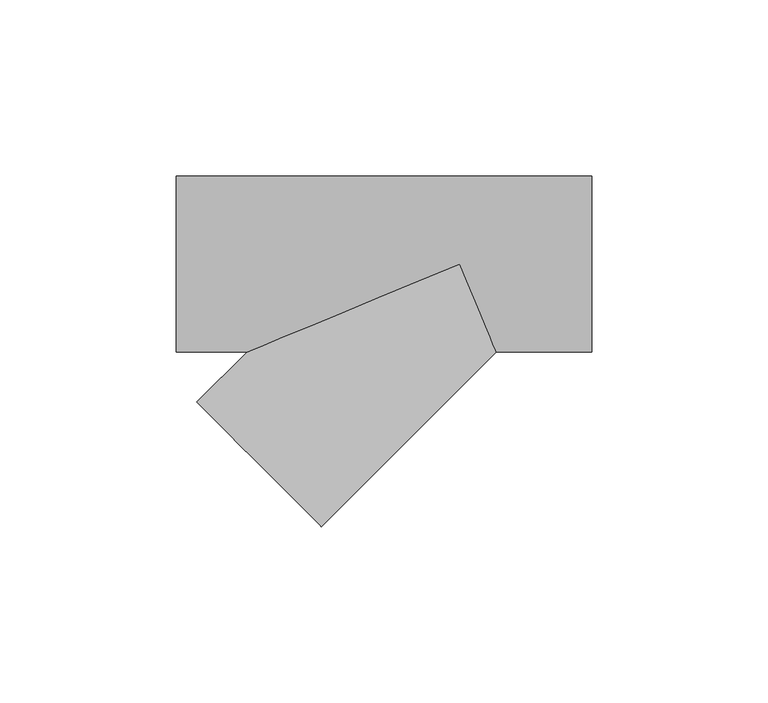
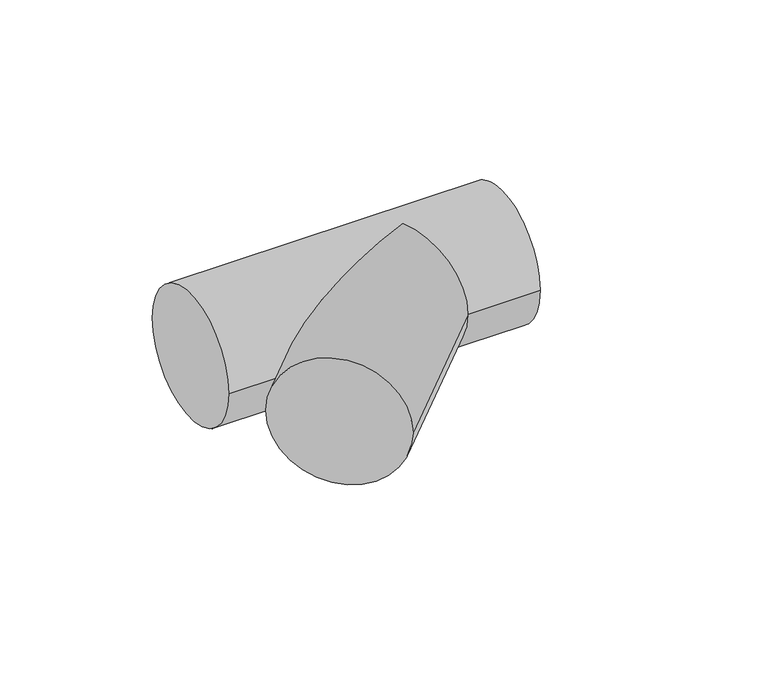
"""IFC4 building model written with IfcOpenShell, lengths in millimetres: pipe fitting geometry, 010513441 : Tés à 45º."""

import ifcopenshell
import ifcopenshell.guid

model = None  # the IFC model being written
_history = None  # IfcOwnerHistory: only IFC2X3 demands one
_inside = {}  # id of a spatial element -> (the spatial element, [elements in it])
_under = {}  # id of a project, library or spatial element -> (it, [spatial elements below it])
_declared = {}  # id of a project -> (the project, [libraries it declares])
_typed = {}  # id of a type object -> (the type object, [elements of that type])
_made_of = {}  # id of a material, layer set ... -> (it, [elements and type objects made of it])


def new_model(schema):
    """Start an empty IFC model of exactly this schema.

    Asked for "IFC4X3", IfcOpenShell would pick the latest addendum, in which some entities
    have other attributes; the version numbers below select the first issue.
    IFC2X3 requires an IfcOwnerHistory on every rooted entity: one is made here for all.
    """
    global model, _history
    if schema == "IFC4X3":
        model = ifcopenshell.file(schema_version=(4, 3, 0, 0))
    else:
        model = ifcopenshell.file(schema=schema)
    _inside.clear()
    _under.clear()
    _declared.clear()
    _typed.clear()
    _made_of.clear()
    _history = None
    if model.schema == "IFC2X3":
        org = make("IfcOrganization", Name="unknown")
        user = make(
            "IfcPersonAndOrganization",
            ThePerson=make("IfcPerson", FamilyName="unknown"),
            TheOrganization=org,
        )
        app = make(
            "IfcApplication",
            ApplicationDeveloper=org,
            Version="unknown",
            ApplicationFullName="unknown",
            ApplicationIdentifier="unknown",
        )
        _history = make(
            "IfcOwnerHistory",
            OwningUser=user,
            OwningApplication=app,
            ChangeAction="ADDED",
            CreationDate=0,
        )
    return model


def make(cls, **values):
    """One entity of the class cls with the attributes given. An attribute that is None is left unset."""
    return model.create_entity(
        cls, **{name: value for name, value in values.items() if value is not None}
    )


def rooted(cls, **values):
    """An entity with a GlobalId (a new one), such as an element, a storey or a relation."""
    return make(cls, GlobalId=ifcopenshell.guid.new(), OwnerHistory=_history, **values)


def si_unit(unit_type, name, prefix=None):
    """IfcSIUnit, for example si_unit("LENGTHUNIT", "METRE", prefix="MILLI")."""
    return make("IfcSIUnit", UnitType=unit_type, Prefix=prefix, Name=name)


def assignment(units):
    """IfcUnitAssignment: the units of a project."""
    return None if units is None else make("IfcUnitAssignment", Units=units)


def point(xyz):
    """IfcCartesianPoint."""
    return None if xyz is None else make("IfcCartesianPoint", Coordinates=xyz)


def direction(xyz):
    """IfcDirection."""
    return None if xyz is None else make("IfcDirection", DirectionRatios=xyz)


def frame(location, z_axis=None, x_axis=None):
    """IfcAxis2Placement3D, a coordinate frame: its origin and axes. An axis left out is left unset."""
    return make(
        "IfcAxis2Placement3D",
        Location=point(location),
        Axis=direction(z_axis),
        RefDirection=direction(x_axis),
    )


def origin():
    """The frame at (0, 0, 0) with its axes left unset."""
    return frame((0.0, 0.0, 0.0))


def place(relative_to, where):
    """IfcLocalPlacement: puts the frame where relative to a parent placement (None: the world)."""
    return make(
        "IfcLocalPlacement", PlacementRelTo=relative_to, RelativePlacement=where
    )


def context(
    kind, dimensions, precision=None, world=None, true_north=None, identifier=None
):
    """IfcGeometricRepresentationContext, for example the 3D "Model" context."""
    return make(
        "IfcGeometricRepresentationContext",
        ContextIdentifier=identifier,
        ContextType=kind,
        CoordinateSpaceDimension=dimensions,
        Precision=precision,
        WorldCoordinateSystem=world,
        TrueNorth=true_north,
    )


def project(units=None, contexts=None):
    """IfcProject with its units and contexts."""
    return rooted(
        "IfcProject",
        Name="project",
        RepresentationContexts=contexts,
        UnitsInContext=assignment(units),
    )


def spatial(cls, under=None, at=None, **own):
    """A site, building, storey or space (cls), placed at a placement, below another one or the project."""
    s = rooted(cls, ObjectPlacement=at, **own)
    if under is not None:
        _under.setdefault(under.id(), (under, []))[1].append(s)
    return s


def circle_curve(where, radius):
    """IfcCircle in the frame where."""
    return make("IfcCircle", Position=where, Radius=radius)


def ellipse_curve(where, semi_axis1, semi_axis2):
    """IfcEllipse in the frame where."""
    return make(
        "IfcEllipse", Position=where, SemiAxis1=semi_axis1, SemiAxis2=semi_axis2
    )


def shape(context_of_items, identifier, shape_type, items):
    """IfcShapeRepresentation: the items that make up one representation, for example the "Body"."""
    return make(
        "IfcShapeRepresentation",
        ContextOfItems=context_of_items,
        RepresentationIdentifier=identifier,
        RepresentationType=shape_type,
        Items=items,
    )


def source(mapping_origin, context_of_items, identifier, shape_type, items):
    """IfcRepresentationMap: a shape defined once, which mapped items show again and again."""
    return make(
        "IfcRepresentationMap",
        MappingOrigin=mapping_origin,
        MappedRepresentation=shape(context_of_items, identifier, shape_type, items),
    )


def transform(
    local_origin,
    x_axis=None,
    y_axis=None,
    z_axis=None,
    scale=None,
    scale2=None,
    scale3=None,
    uniform=True,
):
    """IfcCartesianTransformationOperator3D, or its non-uniform kind. x_axis, y_axis, z_axis: its Axis1, 2, 3."""
    if uniform:
        return make(
            "IfcCartesianTransformationOperator3D",
            Axis1=direction(x_axis),
            Axis2=direction(y_axis),
            LocalOrigin=point(local_origin),
            Scale=scale,
            Axis3=direction(z_axis),
        )
    return make(
        "IfcCartesianTransformationOperator3DnonUniform",
        Axis1=direction(x_axis),
        Axis2=direction(y_axis),
        LocalOrigin=point(local_origin),
        Scale=scale,
        Axis3=direction(z_axis),
        Scale2=scale2,
        Scale3=scale3,
    )


def mapped(mapping_source, mapping_target):
    """IfcMappedItem: shows the shape of a source again, moved by a transform."""
    return make(
        "IfcMappedItem", MappingSource=mapping_source, MappingTarget=mapping_target
    )


def made_of(thing, what):
    """Note that an element or type object is made of a material, layer set ...; save() writes the relation."""
    if what is not None:
        _made_of.setdefault(what.id(), (what, []))[1].append(thing)
    return thing


def element(
    cls,
    number,
    at=None,
    inside=None,
    cuts=None,
    type_object=None,
    material=None,
    context=None,
    identifier="Body",
    shape_type=None,
    held_by="IfcProductDefinitionShape",
    body=None,
    shapes=None,
    **own,
):
    """One element of the class cls, such as IfcWall. Its Tag is "e" and its number.

    at: its placement. inside: the storey or other place that contains it. cuts: it is an
    opening in that element (IfcRelVoidsElement). A single representation is given by context,
    identifier, shape_type and body (its items); several are given by shapes. held_by: the class
    of the entity that holds the representations. save() writes the other relations.
    """
    e = rooted(cls, Tag="e%d" % number, ObjectPlacement=at, **own)
    if body is not None:
        shapes = [shape(context, identifier, shape_type, body)]
    if shapes is not None:
        e.Representation = make(held_by, Representations=shapes)
    if inside is not None:
        _inside.setdefault(inside.id(), (inside, []))[1].append(e)
    if cuts is not None:
        rooted(
            "IfcRelVoidsElement", RelatingBuildingElement=cuts, RelatedOpeningElement=e
        )
    if type_object is not None:
        _typed.setdefault(type_object.id(), (type_object, []))[1].append(e)
    return made_of(e, material)


def aggregate(whole, parts):
    """IfcRelAggregates: a whole, such as a stair, and the parts it consists of."""
    return rooted("IfcRelAggregates", RelatingObject=whole, RelatedObjects=parts)


def save(model, path):
    """Write the relations noted so far, then the file.

    IfcRelAggregates (storeys below a building ...), IfcRelContainedInSpatialStructure (elements
    in a storey), IfcRelDefinesByType, IfcRelAssociatesMaterial and IfcRelDeclares: one each for
    every whole, place, type object, material and project.
    """
    for whole, parts in _under.values():
        aggregate(whole, parts)
    for where, things in _inside.values():
        rooted(
            "IfcRelContainedInSpatialStructure",
            RelatedElements=things,
            RelatingStructure=where,
        )
    for kind, things in _typed.values():
        rooted("IfcRelDefinesByType", RelatedObjects=things, RelatingType=kind)
    for what, things in _made_of.values():
        rooted("IfcRelAssociatesMaterial", RelatedObjects=things, RelatingMaterial=what)
    for by, libraries in _declared.values():
        rooted("IfcRelDeclares", RelatingContext=by, RelatedDefinitions=libraries)
    model.write(path)


def plane_surface(at):
    """IfcPlane: the flat surface through the origin of the frame at, square to its z axis."""
    return make("IfcPlane", Position=at)


def cylinder_surface(at, radius):
    """IfcCylindricalSurface: all points at the distance radius from the z axis of the frame at."""
    return make("IfcCylindricalSurface", Position=at, Radius=radius)


def advanced_brep(points, edges, surfaces, faces):
    """IfcAdvancedBrep: a solid bounded by faces that lie on surfaces and meet in shared edges.

    An edge is (start, end): straight between two places in points (the first is 0);
    or (start, end, curve); or (start, end, curve, False) where it runs against its curve.
    A face is (place in surfaces, loops), or (place, loops, False) where it looks against
    its surface's normal. A loop lists edges by number (the first is 1), with a minus sign
    where the edge is run from its end to its start. The first loop is the outer one.
    """
    corners = [point(p) for p in points]
    vertices = [make("IfcVertexPoint", VertexGeometry=c) for c in corners]
    made = []
    for start, end, *more in edges:
        made.append(
            make(
                "IfcEdgeCurve",
                EdgeStart=vertices[start],
                EdgeEnd=vertices[end],
                EdgeGeometry=more[0] if more else make("IfcPolyline", Points=[corners[start], corners[end]]),
                SameSense=more[1] if len(more) > 1 else True,
            )
        )
    hull = []
    for where, loops, *sense in faces:
        bounds = []
        for j, loop in enumerate(loops):
            ring = [make("IfcOrientedEdge", EdgeElement=made[abs(k) - 1], Orientation=k > 0) for k in loop]
            bounds.append(
                make(
                    "IfcFaceOuterBound" if j == 0 else "IfcFaceBound",
                    Bound=make("IfcEdgeLoop", EdgeList=ring),
                    Orientation=True,
                )
            )
        hull.append(make("IfcAdvancedFace", Bounds=bounds, FaceSurface=surfaces[where], SameSense=sense[0] if sense else True))
    return make("IfcAdvancedBrep", Outer=make("IfcClosedShell", CfsFaces=hull))


def pipe_fitting_2c116002(model_context):
    return source(origin(), model_context, "Body", "AdvancedBrep", [
        advanced_brep(
        [(-80.5, -25.0, 0.0), (-80.5, 25.0, 0.0), (37.5, -25.0, 0.0), (37.5, 25.0, 0.0), (-60.3553391, -25.0, 0.0), (0.0, 0.0, 25.0), (10.3553391, -25.0, 0.0), (0.0, 0.0, -25.0), (-74.5997654, -39.2444264, 0.0), (-39.2444264, -74.5997654, 0.0)],
        [
            (0, 1, circle_curve(frame((-80.5, 0.0, 0.0), z_axis=(-1.0, 0.0, 0.0), x_axis=(0.0, 1.0, 0.0)), 25.0)),
            (1, 0, circle_curve(frame((-80.5, 0.0, 0.0), z_axis=(-1.0, 0.0, 0.0), x_axis=(0.0, 1.0, 0.0)), 25.0)),
            (2, 3, circle_curve(frame((37.5, 0.0, 0.0), z_axis=(1.0, 0.0, 0.0), x_axis=(0.0, 1.0, 0.0)), 25.0)),
            (3, 2, circle_curve(frame((37.5, 0.0, 0.0), z_axis=(1.0, 0.0, 0.0), x_axis=(0.0, 1.0, 0.0)), 25.0)),
            (0, 4),
            (4, 5, ellipse_curve(frame((0.0, 0.0, 0.0), z_axis=(-0.38268343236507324, 0.9238795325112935, 0.0), x_axis=(-0.9238795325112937, -0.38268343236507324, 0.0)), 65.3281482, 25.0)),
            (5, 6, ellipse_curve(frame((0.0, 0.0, 0.0), z_axis=(0.9238795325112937, 0.3826834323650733, 0.0), x_axis=(-0.38268343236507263, 0.9238795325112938, 0.0)), 27.059805, 25.0)),
            (6, 2),
            (3, 1),
            (6, 7, ellipse_curve(frame((0.0, 0.0, 0.0), z_axis=(0.9238795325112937, 0.3826834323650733, 0.0), x_axis=(-0.38268343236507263, 0.9238795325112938, 0.0)), 27.059805, 25.0)),
            (7, 4, ellipse_curve(frame((0.0, 0.0, 0.0), z_axis=(-0.38268343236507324, 0.9238795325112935, 0.0), x_axis=(-0.9238795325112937, -0.38268343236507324, 0.0)), 65.3281482, 25.0)),
            (8, 9, circle_curve(frame((-56.9220959, -56.9220959, 0.0), z_axis=(-0.7071067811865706, -0.7071067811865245, 0.0), x_axis=(0.7071067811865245, -0.7071067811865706, 0.0)), 25.0)),
            (9, 8, circle_curve(frame((-56.9220959, -56.9220959, 0.0), z_axis=(-0.7071067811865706, -0.7071067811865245, 0.0), x_axis=(0.7071067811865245, -0.7071067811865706, 0.0)), 25.0)),
            (9, 6),
            (4, 8),
        ],
        [
            plane_surface(frame((-80.5, 0.0, 0.0), z_axis=(-1.0, 0.0, 0.0), x_axis=(0.0, 0.0, 1.0))),
            plane_surface(frame((37.5, 0.0, 0.0), z_axis=(1.0, 0.0, 0.0), x_axis=(0.0, 0.0, 1.0))),
            cylinder_surface(frame((-80.5, 0.0, 0.0), z_axis=(-1.0, 0.0, 0.0), x_axis=(0.0, 1.0, 0.0)), 25.0),
            plane_surface(frame((-56.9220959, -56.9220959, 0.0), z_axis=(-0.7071067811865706, -0.7071067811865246, 0.0), x_axis=(0.0, 0.0, 1.0))),
            cylinder_surface(frame((0.0, 0.0, 0.0), z_axis=(0.7071067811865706, 0.7071067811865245, 0.0), x_axis=(0.7071067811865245, -0.7071067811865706, 0.0)), 25.0),
        ],
        [
            (0, [[1, 2]]),
            (1, [[3, 4]]),
            (2, [[-1, 5, 6, 7, 8, -4, 9]]),
            (2, [[-2, -9, -3, -8, 10, 11, -5]]),
            (3, [[12, 13]]),
            (4, [[-13, 14, -7, -6, 15]]),
            (4, [[-12, -15, -11, -10, -14]]),
        ],
    ),
    ])


if __name__ == "__main__":
    model = new_model("IFC4")
    model_context = context("Model", 3, world=origin())
    ifc_project = project(units=[si_unit("LENGTHUNIT", "METRE", prefix="MILLI")], contexts=[model_context])
    site = spatial("IfcSite", under=ifc_project)
    building = spatial("IfcBuilding", under=site)
    placement = place(None, origin())
    pipe_fitting_shape = pipe_fitting_2c116002(model_context)
    element("IfcPipeFitting", 1, ObjectType="010513441 : Tés à 45º", at=placement, inside=building, context=model_context, shape_type="MappedRepresentation", body=[
        mapped(pipe_fitting_shape, transform((0.0, 0.0, 0.0), x_axis=(1.0, 0.0, 0.0), y_axis=(0.0, 1.0, 0.0), z_axis=(0.0, 0.0, 1.0))),
    ])
    save(model, "model.ifc")
